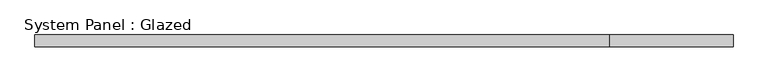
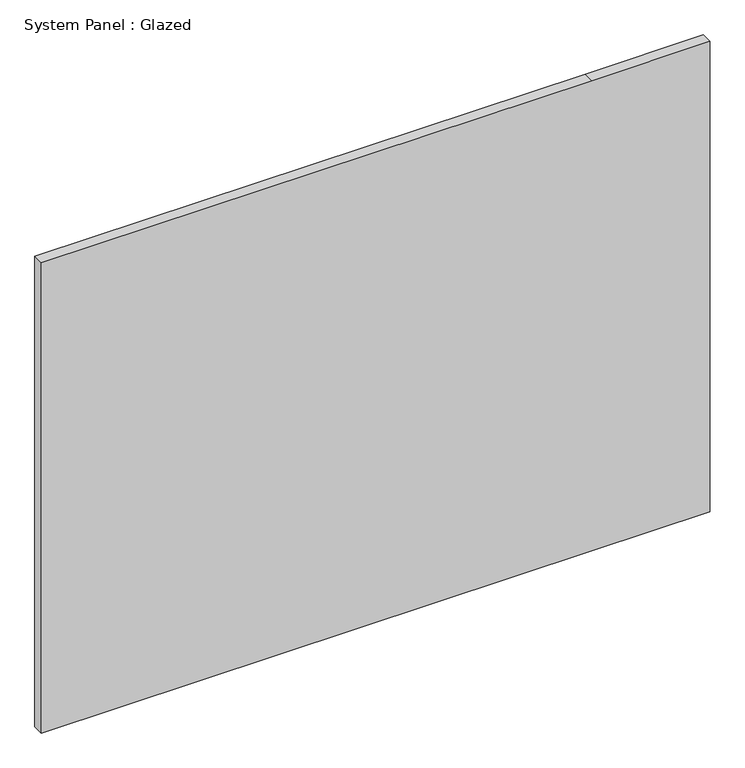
"""IFC4 building model written with IfcOpenShell, lengths in millimetres: plate geometry, System Panel : Glazed."""

from ifc_helpers import new_model, si_unit, frame, origin, place, context, project, spatial, polyline, outline, extrude, source, transform, mapped, element, save


def system_panel_glazed_fabe228a(model_context):
    return source(origin(), model_context, "Body", "SweptSolid", [
        extrude(outline(polyline([(0.0, -756.44375), (0.0, 488.95), (0.0, 756.44375), (1123.95, 756.44375), (1123.95, 488.95), (1123.95, -756.44375), (0.0, -756.44375)])), frame((0.0, -44.45, 0.0), z_axis=(0.0, 1.0, 0.0), x_axis=(0.0, 0.0, 1.0)), (0.0, 0.0, 1.0), 25.4),
    ])


if __name__ == "__main__":
    model = new_model("IFC4")
    model_context = context("Model", 3, world=origin())
    ifc_project = project(units=[si_unit("LENGTHUNIT", "METRE", prefix="MILLI")], contexts=[model_context])
    site = spatial("IfcSite", under=ifc_project)
    building = spatial("IfcBuilding", under=site)
    placement = place(None, origin())
    system_panel_glazed_shape = system_panel_glazed_fabe228a(model_context)
    element("IfcPlate", 1, ObjectType="System Panel : Glazed", at=placement, inside=building, context=model_context, shape_type="MappedRepresentation", body=[
        mapped(system_panel_glazed_shape, transform((0.0, 0.0, 0.0), x_axis=(1.0, 0.0, 0.0), y_axis=(0.0, 1.0, 0.0), z_axis=(0.0, 0.0, 1.0))),
    ])
    save(model, "model.ifc")
